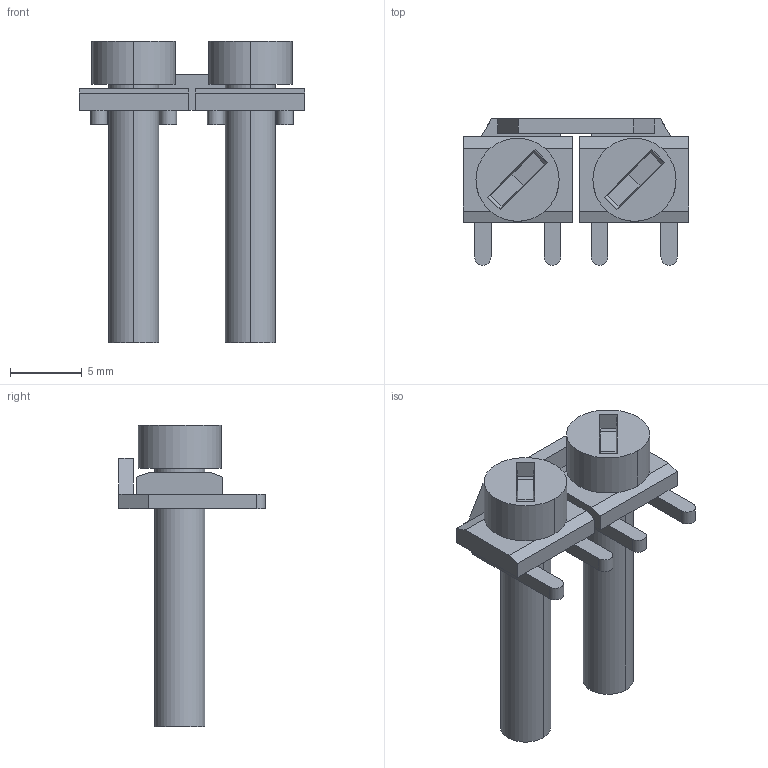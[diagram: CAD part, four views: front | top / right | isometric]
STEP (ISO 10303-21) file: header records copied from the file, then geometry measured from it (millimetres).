
FILE_DESCRIPTION( ('This file contains a STEP AP42 implementation' ,'as created by ZW3D STEP Interface translator.') ,'2;1' );
FILE_NAME( 'FB-2-RTK-S_3D.stp' ,'23 729.1149 7', (''), ('ZWCAD Software Co.'), 'Version 1.0', 'ZW3D to STEP translator', '' );
FILE_SCHEMA(('AUTOMOTIVE_DESIGN { 1 0 10303 214 1 1 1 1 }'));
Length unit declared in the file: millimetre
Products named in the file (2): 0; FB_10-RTK_S-select
Bounding box: 15.75 x 10.2 x 21 mm (x, y, z)
Volume: 682.1 mm3; surface area: 1020.4 mm2
Topology: 1 solids, 1 shells, 84 faces, 208 edges, 134 vertices
Faces by surface type: plane 66, cylinder 18
Entity records: 2570 total; most frequent: CARTESIAN_POINT 427, ORIENTED_EDGE 416, DIRECTION 414, EDGE_CURVE 208, VECTOR 172, LINE 172, VERTEX_POINT 134, AXIS2_PLACEMENT_3D 121
